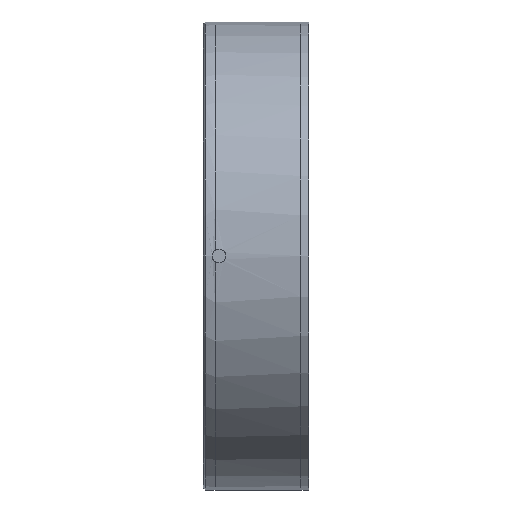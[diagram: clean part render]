
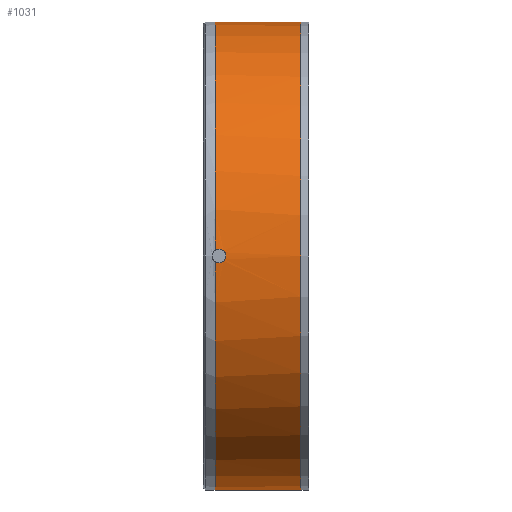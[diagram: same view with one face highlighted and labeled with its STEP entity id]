
A CAD part, left-side view. The second image highlights one B-rep face of the part: STEP entity #1031.
In plain terms, the highlighted cylindrical face has radius 60 mm (diameter 120 mm), a partial arc.
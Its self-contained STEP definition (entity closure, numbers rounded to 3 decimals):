
#93=DIRECTION('',(0.,-1.,0.));
#94=VECTOR('',#93,22.);
#95=CARTESIAN_POINT('',(0.,24.,60.));
#96=LINE('',#95,#94);
#125=DIRECTION('',(0.,-1.,0.));
#126=VECTOR('',#125,22.);
#127=CARTESIAN_POINT('',(0.,24.,-60.));
#128=LINE('',#127,#126);
#129=DIRECTION('',(0.,1.,0.));
#130=VECTOR('',#129,1.);
#131=CARTESIAN_POINT('',(-59.974,23.,-1.75));
#132=LINE('',#131,#130);
#133=CARTESIAN_POINT('',(-59.974,23.,1.75));
#134=CARTESIAN_POINT('',(-59.974,22.808,1.75));
#135=CARTESIAN_POINT('',(-59.976,22.445,1.69));
#136=CARTESIAN_POINT('',(-59.983,21.946,1.433));
#137=CARTESIAN_POINT('',(-59.991,21.561,1.045));
#138=CARTESIAN_POINT('',(-59.998,21.308,0.549));
#139=CARTESIAN_POINT('',(-60.001,21.221,
-0.001));
#140=CARTESIAN_POINT('',(-59.998,21.309,
-0.552));
#141=CARTESIAN_POINT('',(-59.991,21.562,-1.047));
#142=CARTESIAN_POINT('',(-59.983,21.955,-1.44));
#143=CARTESIAN_POINT('',(-59.976,22.45,-1.691));
#144=CARTESIAN_POINT('',(-59.974,22.81,-1.75));
#145=CARTESIAN_POINT('',(-59.974,23.,-1.75));
#147=DIRECTION('',(0.,-1.,0.));
#148=VECTOR('',#147,1.);
#149=CARTESIAN_POINT('',(-59.974,24.,1.75));
#150=LINE('',#149,#148);
#151=CARTESIAN_POINT('',(0.,2.,0.));
#152=DIRECTION('',(0.,1.,0.));
#153=DIRECTION('',(0.,0.,-1.));
#154=AXIS2_PLACEMENT_3D('',#151,#152,#153);
#160=CARTESIAN_POINT('',(0.,24.,0.));
#161=DIRECTION('',(0.,1.,0.));
#162=DIRECTION('',(-1.,0.,0.029));
#163=AXIS2_PLACEMENT_3D('',#160,#161,#162);
#175=CARTESIAN_POINT('',(0.,24.,0.));
#176=DIRECTION('',(0.,1.,0.));
#177=DIRECTION('',(0.,0.,-1.));
#178=AXIS2_PLACEMENT_3D('',#175,#176,#177);
#708=CARTESIAN_POINT('',(-59.974,24.,1.75));
#709=CARTESIAN_POINT('',(-59.974,23.,1.75));
#710=VERTEX_POINT('',#708);
#711=VERTEX_POINT('',#709);
#732=CARTESIAN_POINT('',(-59.974,24.,-1.75));
#734=VERTEX_POINT('',#732);
#744=CARTESIAN_POINT('',(0.,24.,60.));
#745=VERTEX_POINT('',#744);
#747=CARTESIAN_POINT('',(-59.974,23.,-1.75));
#749=VERTEX_POINT('',#747);
#768=CARTESIAN_POINT('',(0.,24.,-60.));
#769=CARTESIAN_POINT('',(0.,2.,-60.));
#770=VERTEX_POINT('',#768);
#771=VERTEX_POINT('',#769);
#814=CARTESIAN_POINT('',(0.,2.,60.));
#816=VERTEX_POINT('',#814);
#1011=CARTESIAN_POINT('',(0.,29.5,0.));
#1012=DIRECTION('',(0.,1.,0.));
#1013=DIRECTION('',(0.,0.,1.));
#1014=AXIS2_PLACEMENT_3D('',#1011,#1012,#1013);
#1015=CYLINDRICAL_SURFACE('',#1014,60.);
#1016=ORIENTED_EDGE('',*,*,#961,.F.);
#1018=ORIENTED_EDGE('',*,*,#1017,.T.);
#1020=ORIENTED_EDGE('',*,*,#1019,.F.);
#1022=ORIENTED_EDGE('',*,*,#1021,.F.);
#1024=ORIENTED_EDGE('',*,*,#1023,.F.);
#1026=ORIENTED_EDGE('',*,*,#1025,.T.);
#1027=ORIENTED_EDGE('',*,*,#958,.T.);
#1028=ORIENTED_EDGE('',*,*,#1004,.F.);
#1029=EDGE_LOOP('',(#1016,#1018,#1020,#1022,#1024,#1026,#1027,#1028));
#1030=FACE_OUTER_BOUND('',#1029,.F.);
#146=B_SPLINE_CURVE_WITH_KNOTS('',3,(#133,#134,#135,#136,#137,#138,#139,#140,
#141,#142,#143,#144,#145),.UNSPECIFIED.,.F.,.F.,(4,1,1,1,1,1,1,1,1,1,4),(0.,
0.1,0.2,0.3,0.4,0.5,0.6,0.7,0.8,0.9,1.),.UNSPECIFIED.);
#155=CIRCLE('',#154,60.);
#164=CIRCLE('',#163,60.);
#179=CIRCLE('',#178,60.);
#958=EDGE_CURVE('',#745,#816,#96,.T.);
#961=EDGE_CURVE('',#770,#771,#128,.T.);
#1004=EDGE_CURVE('',#771,#816,#155,.T.);
#1017=EDGE_CURVE('',#770,#734,#179,.T.);
#1019=EDGE_CURVE('',#749,#734,#132,.T.);
#1021=EDGE_CURVE('',#711,#749,#146,.T.);
#1023=EDGE_CURVE('',#710,#711,#150,.T.);
#1025=EDGE_CURVE('',#710,#745,#164,.T.);
#1031=ADVANCED_FACE('',(#1030),#1015,.T.);
